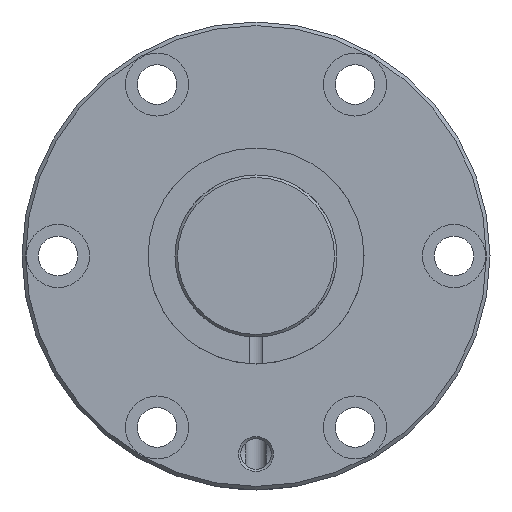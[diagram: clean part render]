
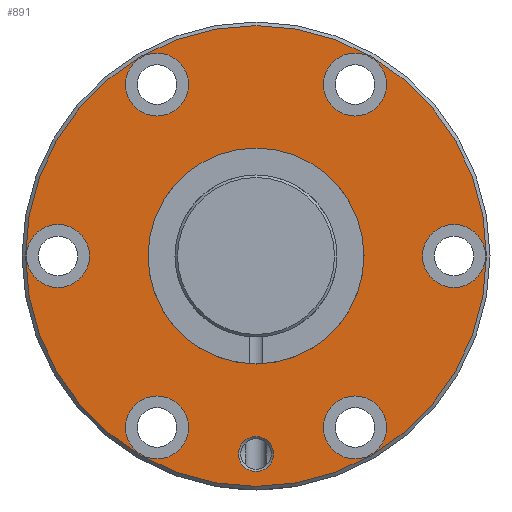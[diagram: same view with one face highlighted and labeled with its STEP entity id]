
A CAD part, left-side view. The second image highlights one B-rep face of the part: STEP entity #891.
In plain terms, the highlighted planar face has unit normal (-1, 0, 0).
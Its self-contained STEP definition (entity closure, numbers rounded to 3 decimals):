
#173=ORIENTED_EDGE('',*,*,#343,.T.);
#174=ORIENTED_EDGE('',*,*,#361,.T.);
#175=ORIENTED_EDGE('',*,*,#362,.T.);
#176=ORIENTED_EDGE('',*,*,#363,.T.);
#177=ORIENTED_EDGE('',*,*,#364,.T.);
#178=ORIENTED_EDGE('',*,*,#365,.T.);
#179=ORIENTED_EDGE('',*,*,#366,.T.);
#180=ORIENTED_EDGE('',*,*,#367,.T.);
#181=ORIENTED_EDGE('',*,*,#360,.F.);
#343=EDGE_CURVE('',#441,#441,#517,.T.);
#360=EDGE_CURVE('',#458,#458,#522,.T.);
#361=EDGE_CURVE('',#459,#459,#523,.F.);
#362=EDGE_CURVE('',#460,#460,#524,.T.);
#363=EDGE_CURVE('',#461,#461,#525,.T.);
#364=EDGE_CURVE('',#462,#462,#526,.T.);
#365=EDGE_CURVE('',#463,#463,#527,.T.);
#366=EDGE_CURVE('',#464,#464,#528,.T.);
#367=EDGE_CURVE('',#465,#465,#529,.T.);
#441=VERTEX_POINT('',#1519);
#458=VERTEX_POINT('',#1557);
#459=VERTEX_POINT('',#1560);
#460=VERTEX_POINT('',#1562);
#461=VERTEX_POINT('',#1564);
#462=VERTEX_POINT('',#1566);
#463=VERTEX_POINT('',#1568);
#464=VERTEX_POINT('',#1570);
#465=VERTEX_POINT('',#1572);
#517=CIRCLE('',#992,30.);
#522=CIRCLE('',#1001,64.);
#523=CIRCLE('',#1003,8.75);
#524=CIRCLE('',#1004,4.864);
#525=CIRCLE('',#1005,8.75);
#526=CIRCLE('',#1006,8.75);
#527=CIRCLE('',#1007,8.75);
#528=CIRCLE('',#1008,8.75);
#529=CIRCLE('',#1009,8.75);
#602=EDGE_LOOP('',(#173));
#603=EDGE_LOOP('',(#174));
#604=EDGE_LOOP('',(#175));
#605=EDGE_LOOP('',(#176));
#606=EDGE_LOOP('',(#177));
#607=EDGE_LOOP('',(#178));
#608=EDGE_LOOP('',(#179));
#609=EDGE_LOOP('',(#180));
#610=EDGE_LOOP('',(#181));
#739=FACE_BOUND('',#602,.T.);
#740=FACE_BOUND('',#603,.T.);
#741=FACE_BOUND('',#604,.T.);
#742=FACE_BOUND('',#605,.T.);
#743=FACE_BOUND('',#606,.T.);
#744=FACE_BOUND('',#607,.T.);
#745=FACE_BOUND('',#608,.T.);
#746=FACE_BOUND('',#609,.T.);
#747=FACE_BOUND('',#610,.T.);
#853=PLANE('',#1002);
#891=ADVANCED_FACE('',(#739,#740,#741,#742,#743,#744,#745,#746,#747),#853,
 .T.);
#992=AXIS2_PLACEMENT_3D('',#1518,#1155,#1156);
#1001=AXIS2_PLACEMENT_3D('',#1556,#1185,#1186);
#1002=AXIS2_PLACEMENT_3D('',#1558,#1187,#1188);
#1003=AXIS2_PLACEMENT_3D('',#1559,#1189,#1190);
#1004=AXIS2_PLACEMENT_3D('',#1561,#1191,#1192);
#1005=AXIS2_PLACEMENT_3D('',#1563,#1193,#1194);
#1006=AXIS2_PLACEMENT_3D('',#1565,#1195,#1196);
#1007=AXIS2_PLACEMENT_3D('',#1567,#1197,#1198);
#1008=AXIS2_PLACEMENT_3D('',#1569,#1199,#1200);
#1009=AXIS2_PLACEMENT_3D('',#1571,#1201,#1202);
#1155=DIRECTION('',(1.,0.,0.));
#1156=DIRECTION('',(0.,0.,-1.));
#1185=DIRECTION('',(1.,0.,0.));
#1186=DIRECTION('',(0.,0.,-1.));
#1187=DIRECTION('',(-1.,0.,0.));
#1188=DIRECTION('',(0.,0.,1.));
#1189=DIRECTION('',(-1.,0.,0.));
#1190=DIRECTION('',(0.,0.,1.));
#1191=DIRECTION('',(1.,0.,0.));
#1192=DIRECTION('',(0.,0.,-1.));
#1193=DIRECTION('',(1.,0.,0.));
#1194=DIRECTION('',(0.,0.,-1.));
#1195=DIRECTION('',(1.,0.,0.));
#1196=DIRECTION('',(0.,0.,-1.));
#1197=DIRECTION('',(1.,0.,0.));
#1198=DIRECTION('',(0.,0.,-1.));
#1199=DIRECTION('',(1.,0.,0.));
#1200=DIRECTION('',(0.,0.,-1.));
#1201=DIRECTION('',(1.,0.,0.));
#1202=DIRECTION('',(0.,0.,-1.));
#1518=CARTESIAN_POINT('',(0.,0.,0.));
#1519=CARTESIAN_POINT('',(0.,0.,-30.));
#1556=CARTESIAN_POINT('',(0.,0.,0.));
#1557=CARTESIAN_POINT('',(0.,0.,-64.));
#1558=CARTESIAN_POINT('',(0.,64.,0.));
#1559=CARTESIAN_POINT('',(0.,55.,0.));
#1560=CARTESIAN_POINT('',(0.,55.,8.75));
#1561=CARTESIAN_POINT('',(0.,0.,-55.));
#1562=CARTESIAN_POINT('',(0.,0.,-59.864));
#1563=CARTESIAN_POINT('',(0.,-55.,0.));
#1564=CARTESIAN_POINT('',(0.,-55.,-8.75));
#1565=CARTESIAN_POINT('',(0.,27.5,47.631));
#1566=CARTESIAN_POINT('',(0.,27.5,38.881));
#1567=CARTESIAN_POINT('',(0.,-27.5,-47.631));
#1568=CARTESIAN_POINT('',(0.,-27.5,-56.381));
#1569=CARTESIAN_POINT('',(0.,-27.5,47.631));
#1570=CARTESIAN_POINT('',(0.,-27.5,38.881));
#1571=CARTESIAN_POINT('',(0.,27.5,-47.631));
#1572=CARTESIAN_POINT('',(0.,27.5,-56.381));
